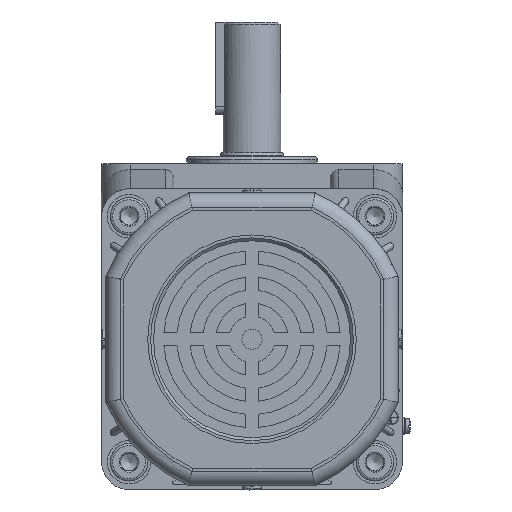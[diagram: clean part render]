
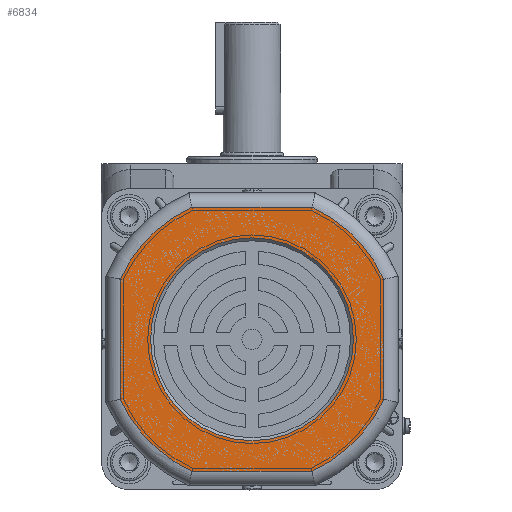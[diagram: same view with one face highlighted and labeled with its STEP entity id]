
A CAD part, left-side view. The second image highlights one B-rep face of the part: STEP entity #6834.
In plain terms, the highlighted planar face has unit normal (-1, 0, 0).
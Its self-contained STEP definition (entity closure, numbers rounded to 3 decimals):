
#1583=FACE_BOUND('',#10484,.T.);
#1584=FACE_BOUND('',#10485,.T.);
#2610=PLANE('',#29520);
#3520=LINE('',#41374,#5127);
#3521=LINE('',#41390,#5128);
#3524=LINE('',#41442,#5131);
#3525=LINE('',#41458,#5132);
#5127=VECTOR('',#33415,1.);
#5128=VECTOR('',#33418,1.);
#5131=VECTOR('',#33435,1.);
#5132=VECTOR('',#33438,1.);
#6834=ADVANCED_FACE('',(#1583,#1584),#2610,.F.);
#10484=EDGE_LOOP('',(#14156));
#10485=EDGE_LOOP('',(#14157,#14158,#14159,#14160,#14161,#14162,#14163,#14164));
#14156=ORIENTED_EDGE('',*,*,#23561,.T.);
#14157=ORIENTED_EDGE('',*,*,#23571,.T.);
#14158=ORIENTED_EDGE('',*,*,#23566,.T.);
#14159=ORIENTED_EDGE('',*,*,#23573,.T.);
#14160=ORIENTED_EDGE('',*,*,#23579,.T.);
#14161=ORIENTED_EDGE('',*,*,#23585,.T.);
#14162=ORIENTED_EDGE('',*,*,#23587,.T.);
#14163=ORIENTED_EDGE('',*,*,#23583,.T.);
#14164=ORIENTED_EDGE('',*,*,#23577,.T.);
#20591=VERTEX_POINT('',#41319);
#20596=VERTEX_POINT('',#41341);
#20597=VERTEX_POINT('',#41343);
#20599=VERTEX_POINT('',#41371);
#20602=VERTEX_POINT('',#41389);
#20603=VERTEX_POINT('',#41405);
#20606=VERTEX_POINT('',#41423);
#20607=VERTEX_POINT('',#41439);
#20610=VERTEX_POINT('',#41457);
#23561=EDGE_CURVE('',#20591,#20591,#27387,.T.);
#23566=EDGE_CURVE('',#20597,#20596,#27391,.T.);
#23571=EDGE_CURVE('',#20599,#20597,#3520,.T.);
#23573=EDGE_CURVE('',#20596,#20602,#3521,.T.);
#23577=EDGE_CURVE('',#20603,#20599,#27394,.T.);
#23579=EDGE_CURVE('',#20602,#20606,#27395,.T.);
#23583=EDGE_CURVE('',#20607,#20603,#3524,.T.);
#23585=EDGE_CURVE('',#20606,#20610,#3525,.T.);
#23587=EDGE_CURVE('',#20610,#20607,#27397,.T.);
#27387=CIRCLE('',#29258,35.);
#27391=CIRCLE('',#29264,50.);
#27394=CIRCLE('',#29270,50.);
#27395=CIRCLE('',#29272,50.);
#27397=CIRCLE('',#29277,50.);
#29258=AXIS2_PLACEMENT_3D('',#41318,#33396,#33397);
#29264=AXIS2_PLACEMENT_3D('',#41342,#33408,#33409);
#29270=AXIS2_PLACEMENT_3D('',#41408,#33424,#33425);
#29272=AXIS2_PLACEMENT_3D('',#41424,#33428,#33429);
#29277=AXIS2_PLACEMENT_3D('',#41461,#33442,#33443);
#29520=AXIS2_PLACEMENT_3D('',#42210,#34120,#34121);
#33396=DIRECTION('',(1.,0.,0.));
#33397=DIRECTION('',(0.,-1.,0.));
#33408=DIRECTION('',(-1.,0.,0.));
#33409=DIRECTION('',(0.,0.,1.));
#33415=DIRECTION('',(0.,-1.,0.));
#33418=DIRECTION('',(0.,0.,1.));
#33424=DIRECTION('',(-1.,0.,0.));
#33425=DIRECTION('',(0.,0.,1.));
#33428=DIRECTION('',(-1.,0.,0.));
#33429=DIRECTION('',(0.,0.,1.));
#33435=DIRECTION('',(0.,0.,-1.));
#33438=DIRECTION('',(0.,1.,0.));
#33442=DIRECTION('',(-1.,0.,0.));
#33443=DIRECTION('',(0.,0.,1.));
#34120=DIRECTION('',(1.,0.,0.));
#34121=DIRECTION('',(0.,0.,1.));
#41318=CARTESIAN_POINT('',(-228.8,-120.671,-58.491));
#41319=CARTESIAN_POINT('',(-228.8,-155.671,-58.491));
#41341=CARTESIAN_POINT('',(-228.8,-166.171,-79.221));
#41342=CARTESIAN_POINT('',(-228.8,-120.671,-58.491));
#41343=CARTESIAN_POINT('',(-228.8,-141.402,-103.991));
#41371=CARTESIAN_POINT('',(-228.8,-99.941,-103.991));
#41374=CARTESIAN_POINT('',(-228.8,-142.46,-103.991));
#41389=CARTESIAN_POINT('',(-228.8,-166.171,-37.76));
#41390=CARTESIAN_POINT('',(-228.8,-166.171,-36.702));
#41405=CARTESIAN_POINT('',(-228.8,-75.171,-79.221));
#41408=CARTESIAN_POINT('',(-228.8,-120.671,-58.491));
#41423=CARTESIAN_POINT('',(-228.8,-141.402,-12.991));
#41424=CARTESIAN_POINT('',(-228.8,-120.671,-58.491));
#41439=CARTESIAN_POINT('',(-228.8,-75.171,-37.76));
#41442=CARTESIAN_POINT('',(-228.8,-75.171,-80.28));
#41457=CARTESIAN_POINT('',(-228.8,-99.941,-12.991));
#41458=CARTESIAN_POINT('',(-228.8,-98.882,-12.991));
#41461=CARTESIAN_POINT('',(-228.8,-120.671,-58.491));
#42210=CARTESIAN_POINT('',(-228.8,-120.671,-58.491));
